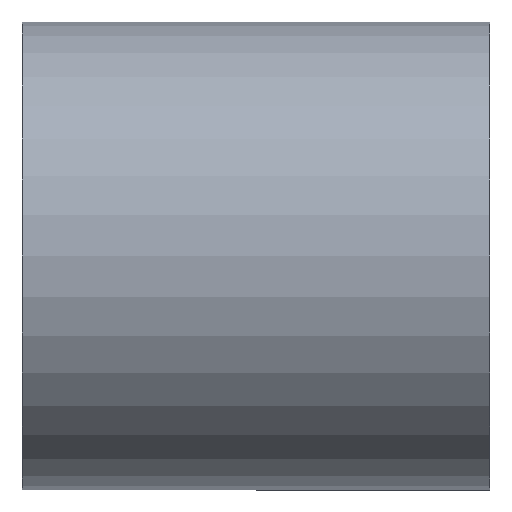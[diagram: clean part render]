
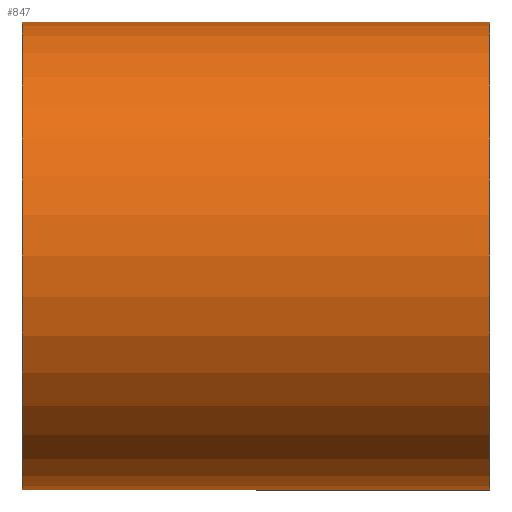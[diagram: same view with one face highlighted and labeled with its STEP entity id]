
A CAD part, front view. The second image highlights one B-rep face of the part: STEP entity #847.
In plain terms, the highlighted cylindrical face has radius 4 mm (diameter 8 mm), a partial arc.
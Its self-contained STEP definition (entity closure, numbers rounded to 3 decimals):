
#13 = ORIENTED_EDGE ( 'NONE', *, *, #299, .T. ) ;
#74 = CARTESIAN_POINT ( 'NONE',  ( 0., 0., -4. ) ) ;
#194 = ORIENTED_EDGE ( 'NONE', *, *, #619, .F. ) ;
#207 = CARTESIAN_POINT ( 'NONE',  ( 0., 0., 4. ) ) ;
#209 = LINE ( 'NONE', #74, #567 ) ;
#234 = DIRECTION ( 'NONE',  ( -1., 0., 0. ) ) ;
#258 = EDGE_CURVE ( 'NONE', #339, #669, #560, .T. ) ;
#264 = DIRECTION ( 'NONE',  ( 0., 0., 1. ) ) ;
#299 = EDGE_CURVE ( 'NONE', #879, #339, #479, .T. ) ;
#302 = EDGE_CURVE ( 'NONE', #694, #669, #652, .T. ) ;
#315 = FACE_OUTER_BOUND ( 'NONE', #464, .T. ) ;
#339 = VERTEX_POINT ( 'NONE', #371 ) ;
#345 = CARTESIAN_POINT ( 'NONE',  ( 4., 0., -4. ) ) ;
#371 = CARTESIAN_POINT ( 'NONE',  ( 4., 0., 4. ) ) ;
#380 = CARTESIAN_POINT ( 'NONE',  ( -4., 0., -4. ) ) ;
#464 = EDGE_LOOP ( 'NONE', ( #194, #13, #661, #645 ) ) ;
#479 = CIRCLE ( 'NONE', #863, 4. ) ;
#492 = DIRECTION ( 'NONE',  ( -1., 0., 0. ) ) ;
#500 = CARTESIAN_POINT ( 'NONE',  ( 0., 0., 0. ) ) ;
#520 = DIRECTION ( 'NONE',  ( 0., 0., 1. ) ) ;
#531 = CYLINDRICAL_SURFACE ( 'NONE', #746, 4. ) ;
#560 = LINE ( 'NONE', #207, #638 ) ;
#567 = VECTOR ( 'NONE', #825, 1000. ) ;
#619 = EDGE_CURVE ( 'NONE', #879, #694, #209, .T. ) ;
#638 = VECTOR ( 'NONE', #492, 1000. ) ;
#645 = ORIENTED_EDGE ( 'NONE', *, *, #302, .F. ) ;
#652 = CIRCLE ( 'NONE', #692, 4. ) ;
#661 = ORIENTED_EDGE ( 'NONE', *, *, #258, .T. ) ;
#669 = VERTEX_POINT ( 'NONE', #712 ) ;
#692 = AXIS2_PLACEMENT_3D ( 'NONE', #794, #234, #520 ) ;
#694 = VERTEX_POINT ( 'NONE', #380 ) ;
#712 = CARTESIAN_POINT ( 'NONE',  ( -4., 0., 4. ) ) ;
#746 = AXIS2_PLACEMENT_3D ( 'NONE', #500, #828, #264 ) ;
#794 = CARTESIAN_POINT ( 'NONE',  ( -4., 0., 0. ) ) ;
#825 = DIRECTION ( 'NONE',  ( -1., 0., 0. ) ) ;
#828 = DIRECTION ( 'NONE',  ( -1., 0., 0. ) ) ;
#846 = DIRECTION ( 'NONE',  ( -1., 0., 0. ) ) ;
#847 = ADVANCED_FACE ( 'NONE', ( #315 ), #531, .T. ) ;
#853 = CARTESIAN_POINT ( 'NONE',  ( 4., 0., 0. ) ) ;
#856 = DIRECTION ( 'NONE',  ( 0., 0., 1. ) ) ;
#863 = AXIS2_PLACEMENT_3D ( 'NONE', #853, #846, #856 ) ;
#879 = VERTEX_POINT ( 'NONE', #345 ) ;
